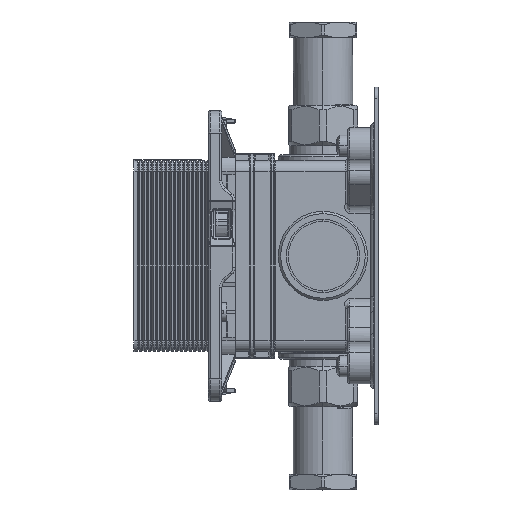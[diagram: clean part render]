
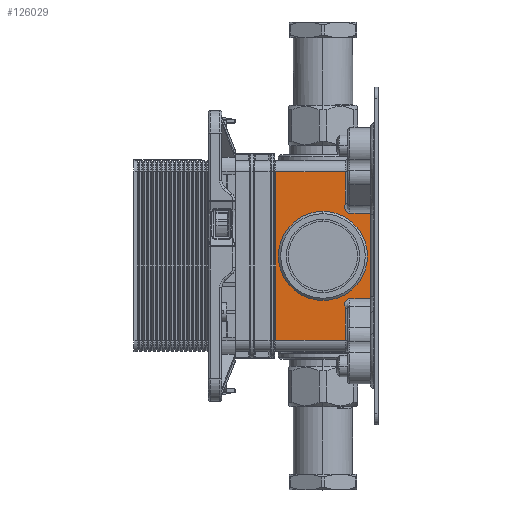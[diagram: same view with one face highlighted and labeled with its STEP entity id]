
A CAD part, left-side view. The second image highlights one B-rep face of the part: STEP entity #126029.
In plain terms, the highlighted planar face has unit normal (-1, 0, 0).
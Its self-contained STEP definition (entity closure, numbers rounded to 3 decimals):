
#15882=DIRECTION('',(0.,-1.,0.));
#15883=VECTOR('',#15882,31.);
#15884=CARTESIAN_POINT('',(-173.5,45.5,-37.481));
#15885=LINE('',#15884,#15883);
#15970=CARTESIAN_POINT('',(-173.5,14.5,
-23.399));
#15971=CARTESIAN_POINT('',(-173.5,14.5,
-23.373));
#15972=CARTESIAN_POINT('',(-173.5,14.503,
-23.318));
#15973=CARTESIAN_POINT('',(-173.5,14.519,
-23.225));
#15974=CARTESIAN_POINT('',(-173.5,14.543,
-23.124));
#15975=CARTESIAN_POINT('',(-173.5,14.576,
-23.014));
#15976=CARTESIAN_POINT('',(-173.5,14.614,
-22.894));
#15977=CARTESIAN_POINT('',(-173.5,14.656,
-22.763));
#15978=CARTESIAN_POINT('',(-173.5,14.7,
-22.617));
#15979=CARTESIAN_POINT('',(-173.5,14.745,
-22.455));
#15980=CARTESIAN_POINT('',(-173.5,14.788,
-22.271));
#15981=CARTESIAN_POINT('',(-173.5,14.825,
-22.063));
#15982=CARTESIAN_POINT('',(-173.5,14.851,
-21.82));
#15983=CARTESIAN_POINT('',(-173.5,14.857,
-21.55));
#15984=CARTESIAN_POINT('',(-173.5,14.837,
-21.28));
#15985=CARTESIAN_POINT('',(-173.5,14.793,
-21.019));
#15986=CARTESIAN_POINT('',(-173.5,14.725,
-20.764));
#15987=CARTESIAN_POINT('',(-173.5,14.633,
-20.517));
#15988=CARTESIAN_POINT('',(-173.5,14.519,
-20.279));
#15989=CARTESIAN_POINT('',(-173.5,14.382,
-20.052));
#15990=CARTESIAN_POINT('',(-173.5,14.224,
-19.838));
#15991=CARTESIAN_POINT('',(-173.5,14.046,
-19.639));
#15992=CARTESIAN_POINT('',(-173.5,13.852,
-19.459));
#15993=CARTESIAN_POINT('',(-173.5,13.647,
-19.302));
#15994=CARTESIAN_POINT('',(-173.5,13.438,
-19.172));
#15995=CARTESIAN_POINT('',(-173.5,13.235,
-19.071));
#15996=CARTESIAN_POINT('',(-173.5,13.04,
-18.997));
#15997=CARTESIAN_POINT('',(-173.5,12.853,
-18.948));
#15998=CARTESIAN_POINT('',(-173.5,12.673,
-18.92));
#15999=CARTESIAN_POINT('',(-173.5,12.557,
-18.914));
#16000=CARTESIAN_POINT('',(-173.5,12.5,
-18.914));
#16034=DIRECTION('',(0.,0.,-1.));
#16035=VECTOR('',#16034,14.082);
#16036=CARTESIAN_POINT('',(-173.5,14.5,
-23.399));
#16037=LINE('',#16036,#16035);
#16038=CARTESIAN_POINT('',(-173.5,24.5,0.019));
#16039=DIRECTION('',(-1.,0.,0.));
#16040=DIRECTION('',(0.,0.,1.));
#16041=AXIS2_PLACEMENT_3D('',#16038,#16039,#16040);
#16043=CARTESIAN_POINT('',(-173.5,24.5,0.019));
#16044=DIRECTION('',(-1.,0.,0.));
#16045=DIRECTION('',(0.,0.,-1.));
#16046=AXIS2_PLACEMENT_3D('',#16043,#16044,#16045);
#16052=DIRECTION('',(0.,-1.,0.));
#16053=VECTOR('',#16052,9.);
#16054=CARTESIAN_POINT('',(-173.5,12.5,
-18.914));
#16055=LINE('',#16054,#16053);
#16056=DIRECTION('',(0.,0.,1.));
#16057=VECTOR('',#16056,37.866);
#16058=CARTESIAN_POINT('',(-173.5,3.5,-18.914));
#16059=LINE('',#16058,#16057);
#16080=DIRECTION('',(0.,1.,0.));
#16081=VECTOR('',#16080,9.);
#16082=CARTESIAN_POINT('',(-173.5,3.5,18.952));
#16083=LINE('',#16082,#16081);
#16120=CARTESIAN_POINT('',(-173.5,12.5,
18.952));
#16121=CARTESIAN_POINT('',(-173.5,12.557,
18.952));
#16122=CARTESIAN_POINT('',(-173.5,12.673,
18.957));
#16123=CARTESIAN_POINT('',(-173.5,12.852,
18.985));
#16124=CARTESIAN_POINT('',(-173.5,13.039,
19.034));
#16125=CARTESIAN_POINT('',(-173.5,13.233,
19.108));
#16126=CARTESIAN_POINT('',(-173.5,13.435,
19.208));
#16127=CARTESIAN_POINT('',(-173.5,13.644,
19.338));
#16128=CARTESIAN_POINT('',(-173.5,13.848,
19.494));
#16129=CARTESIAN_POINT('',(-173.5,14.042,
19.673));
#16130=CARTESIAN_POINT('',(-173.5,14.22,
19.871));
#16131=CARTESIAN_POINT('',(-173.5,14.378,
20.084));
#16132=CARTESIAN_POINT('',(-173.5,14.515,
20.311));
#16133=CARTESIAN_POINT('',(-173.5,14.63,
20.548));
#16134=CARTESIAN_POINT('',(-173.5,14.722,
20.794));
#16135=CARTESIAN_POINT('',(-173.5,14.791,
21.048));
#16136=CARTESIAN_POINT('',(-173.5,14.836,
21.309));
#16137=CARTESIAN_POINT('',(-173.5,14.856,
21.578));
#16138=CARTESIAN_POINT('',(-173.5,14.852,
21.85));
#16139=CARTESIAN_POINT('',(-173.5,14.826,
22.095));
#16140=CARTESIAN_POINT('',(-173.5,14.789,
22.305));
#16141=CARTESIAN_POINT('',(-173.5,14.746,
22.49));
#16142=CARTESIAN_POINT('',(-173.5,14.701,
22.654));
#16143=CARTESIAN_POINT('',(-173.5,14.656,
22.8));
#16144=CARTESIAN_POINT('',(-173.5,14.614,
22.932));
#16145=CARTESIAN_POINT('',(-173.5,14.576,
23.052));
#16146=CARTESIAN_POINT('',(-173.5,14.543,
23.162));
#16147=CARTESIAN_POINT('',(-173.5,14.519,
23.263));
#16148=CARTESIAN_POINT('',(-173.5,14.503,
23.356));
#16149=CARTESIAN_POINT('',(-173.5,14.5,
23.411));
#16150=CARTESIAN_POINT('',(-173.5,14.5,
23.437));
#16315=DIRECTION('',(0.,0.,1.));
#16316=VECTOR('',#16315,14.082);
#16317=CARTESIAN_POINT('',(-173.5,14.5,
23.437));
#16318=LINE('',#16317,#16316);
#16338=DIRECTION('',(0.,1.,0.));
#16339=VECTOR('',#16338,31.);
#16340=CARTESIAN_POINT('',(-173.5,14.5,37.519));
#16341=LINE('',#16340,#16339);
#16361=DIRECTION('',(0.,0.,-1.));
#16362=VECTOR('',#16361,75.);
#16363=CARTESIAN_POINT('',(-173.5,45.5,37.519));
#16364=LINE('',#16363,#16362);
#94333=CARTESIAN_POINT('',(-173.5,14.5,-37.481));
#94334=VERTEX_POINT('',#94333);
#94335=CARTESIAN_POINT('',(-173.5,45.5,-37.481));
#94336=VERTEX_POINT('',#94335);
#94405=VERTEX_POINT('',#15970);
#94406=VERTEX_POINT('',#16000);
#94407=CARTESIAN_POINT('',(-173.5,45.5,37.519));
#94408=VERTEX_POINT('',#94407);
#94409=CARTESIAN_POINT('',(-173.5,14.5,37.519));
#94410=VERTEX_POINT('',#94409);
#94411=CARTESIAN_POINT('',(-173.5,14.5,
23.437));
#94412=VERTEX_POINT('',#94411);
#94413=VERTEX_POINT('',#16120);
#95331=CARTESIAN_POINT('',(-173.5,3.5,-18.914));
#95332=CARTESIAN_POINT('',(-173.5,3.5,18.952));
#95333=VERTEX_POINT('',#95331);
#95334=VERTEX_POINT('',#95332);
#95712=CARTESIAN_POINT('',(-173.5,24.5,
19.819));
#95713=CARTESIAN_POINT('',(-173.5,24.5,-19.781));
#95714=VERTEX_POINT('',#95712);
#95715=VERTEX_POINT('',#95713);
#125999=CARTESIAN_POINT('',(-173.5,3.5,-37.481));
#126000=DIRECTION('',(-1.,0.,0.));
#126001=DIRECTION('',(0.,0.,1.));
#126002=AXIS2_PLACEMENT_3D('',#125999,#126000,#126001);
#126003=PLANE('',#126002);
#126005=ORIENTED_EDGE('',*,*,#126004,.F.);
#126006=ORIENTED_EDGE('',*,*,#125990,.F.);
#126007=ORIENTED_EDGE('',*,*,#125831,.T.);
#126008=ORIENTED_EDGE('',*,*,#125769,.F.);
#126010=ORIENTED_EDGE('',*,*,#126009,.F.);
#126012=ORIENTED_EDGE('',*,*,#126011,.F.);
#126014=ORIENTED_EDGE('',*,*,#126013,.F.);
#126016=ORIENTED_EDGE('',*,*,#126015,.F.);
#126018=ORIENTED_EDGE('',*,*,#126017,.F.);
#126020=ORIENTED_EDGE('',*,*,#126019,.F.);
#126021=EDGE_LOOP('',(#126005,#126006,#126007,#126008,#126010,#126012,#126014,
#126016,#126018,#126020));
#126022=FACE_OUTER_BOUND('',#126021,.F.);
#126024=ORIENTED_EDGE('',*,*,#126023,.T.);
#126026=ORIENTED_EDGE('',*,*,#126025,.T.);
#126027=EDGE_LOOP('',(#126024,#126026));
#126028=FACE_BOUND('',#126027,.F.);
#126029=ADVANCED_FACE('',(#126022,#126028),#126003,.T.);
#16001=B_SPLINE_CURVE_WITH_KNOTS('',3,(#15970,#15971,#15972,#15973,#15974,
#15975,#15976,#15977,#15978,#15979,#15980,#15981,#15982,#15983,#15984,#15985,
#15986,#15987,#15988,#15989,#15990,#15991,#15992,#15993,#15994,#15995,#15996,
#15997,#15998,#15999,#16000),.UNSPECIFIED.,.F.,.F.,(4,1,1,1,1,1,1,1,1,1,1,1,1,1,
1,1,1,1,1,1,1,1,1,1,1,1,1,1,4),(0.,0.036,0.071,
0.107,0.143,0.179,0.214,0.25,
0.286,0.321,0.357,0.393,
0.429,0.464,0.5,0.536,0.571,
0.607,0.643,0.679,0.714,0.75,
0.786,0.821,0.857,0.893,
0.929,0.964,1.),.UNSPECIFIED.);
#16042=CIRCLE('',#16041,19.8);
#16047=CIRCLE('',#16046,19.8);
#16151=B_SPLINE_CURVE_WITH_KNOTS('',3,(#16120,#16121,#16122,#16123,#16124,
#16125,#16126,#16127,#16128,#16129,#16130,#16131,#16132,#16133,#16134,#16135,
#16136,#16137,#16138,#16139,#16140,#16141,#16142,#16143,#16144,#16145,#16146,
#16147,#16148,#16149,#16150),.UNSPECIFIED.,.F.,.F.,(4,1,1,1,1,1,1,1,1,1,1,1,1,1,
1,1,1,1,1,1,1,1,1,1,1,1,1,1,4),(0.,0.036,0.071,
0.107,0.143,0.179,0.214,0.25,
0.286,0.321,0.357,0.393,
0.429,0.464,0.5,0.536,0.571,
0.607,0.643,0.679,0.714,0.75,
0.786,0.821,0.857,0.893,
0.929,0.964,1.),.UNSPECIFIED.);
#125769=EDGE_CURVE('',#94336,#94334,#15885,.T.);
#125831=EDGE_CURVE('',#94405,#94334,#16037,.T.);
#125990=EDGE_CURVE('',#94405,#94406,#16001,.T.);
#126004=EDGE_CURVE('',#94406,#95333,#16055,.T.);
#126009=EDGE_CURVE('',#94408,#94336,#16364,.T.);
#126011=EDGE_CURVE('',#94410,#94408,#16341,.T.);
#126013=EDGE_CURVE('',#94412,#94410,#16318,.T.);
#126015=EDGE_CURVE('',#94413,#94412,#16151,.T.);
#126017=EDGE_CURVE('',#95334,#94413,#16083,.T.);
#126019=EDGE_CURVE('',#95333,#95334,#16059,.T.);
#126023=EDGE_CURVE('',#95714,#95715,#16042,.T.);
#126025=EDGE_CURVE('',#95715,#95714,#16047,.T.);
